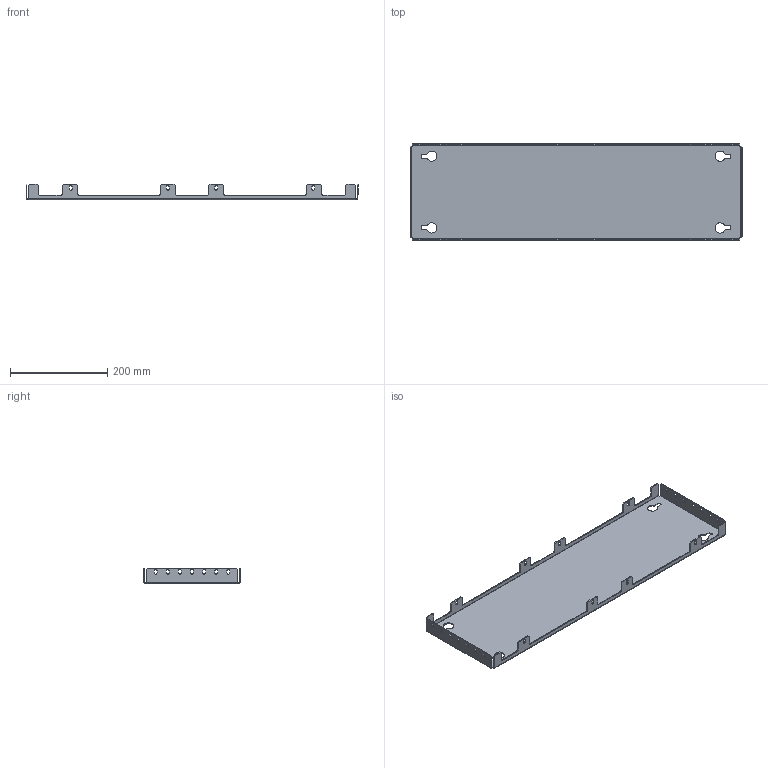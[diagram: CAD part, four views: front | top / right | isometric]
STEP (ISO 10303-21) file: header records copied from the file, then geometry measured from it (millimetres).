
FILE_DESCRIPTION (( 'STEP AP203' ), '1' );
FILE_NAME ('R5LPS0308.STEP', '2021-12-17T12:47:26', ( '' ), ( '' ), 'SwSTEP 2.0', 'SolidWorks 2020', '' );
FILE_SCHEMA (( 'CONFIG_CONTROL_DESIGN' ));
Length unit declared in the file: millimetre
Products named in the file (1): R5LPS0308
Bounding box: 684 x 198 x 32.5 mm (x, y, z)
Volume: 321641.1 mm3; surface area: 328333.8 mm2
Topology: 1 solids, 1 shells, 278 faces, 796 edges, 520 vertices
Faces by surface type: plane 162, cylinder 116
Entity records: 9257 total; most frequent: CARTESIAN_POINT 1595, ORIENTED_EDGE 1592, DIRECTION 1586, EDGE_CURVE 796, LINE 564, VECTOR 564, VERTEX_POINT 520, AXIS2_PLACEMENT_3D 511
